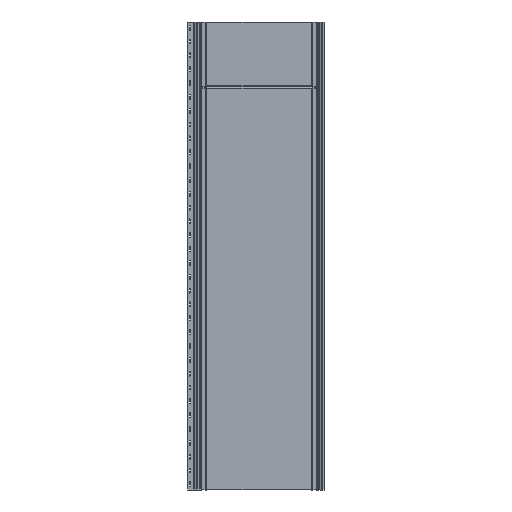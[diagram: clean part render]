
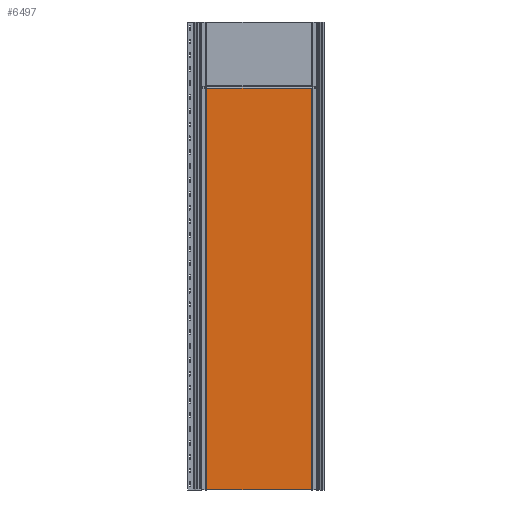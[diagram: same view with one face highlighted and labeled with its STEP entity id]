
A CAD part, front view. The second image highlights one B-rep face of the part: STEP entity #6497.
In plain terms, the highlighted planar face has unit normal (0, -1, 0).
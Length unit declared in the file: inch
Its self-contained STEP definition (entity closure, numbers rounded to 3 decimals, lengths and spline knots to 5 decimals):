
#505=FACE_OUTER_BOUND('',#878,.T.);
#878=EDGE_LOOP('',(#4473,#4474,#4475,#4476));
#1667=LINE('',#9478,#2184);
#1699=LINE('',#9674,#2216);
#1700=LINE('',#9683,#2217);
#1701=LINE('',#9684,#2218);
#2184=VECTOR('',#7623,0.3937);
#2216=VECTOR('',#7719,39.37008);
#2217=VECTOR('',#7722,39.37008);
#2218=VECTOR('',#7723,39.37008);
#2731=VERTEX_POINT('',#9475);
#2732=VERTEX_POINT('',#9477);
#2773=VERTEX_POINT('',#9673);
#2774=VERTEX_POINT('',#9682);
#3373=EDGE_CURVE('',#2732,#2731,#1667,.T.);
#3429=EDGE_CURVE('',#2773,#2732,#1699,.T.);
#3431=EDGE_CURVE('',#2774,#2731,#1700,.T.);
#3432=EDGE_CURVE('',#2773,#2774,#1701,.T.);
#4473=ORIENTED_EDGE('',*,*,#3373,.T.);
#4474=ORIENTED_EDGE('',*,*,#3431,.F.);
#4475=ORIENTED_EDGE('',*,*,#3432,.F.);
#4476=ORIENTED_EDGE('',*,*,#3429,.T.);
#6356=PLANE('',#6937);
#6497=ADVANCED_FACE('',(#505),#6356,.T.);
#6937=AXIS2_PLACEMENT_3D('',#9681,#7720,#7721);
#7623=DIRECTION('',(1.,0.,0.));
#7719=DIRECTION('',(0.,0.,-1.));
#7720=DIRECTION('center_axis',(0.,-1.,0.));
#7721=DIRECTION('ref_axis',(1.,0.,0.));
#7722=DIRECTION('',(0.,0.,-1.));
#7723=DIRECTION('',(1.,0.,0.));
#9475=CARTESIAN_POINT('',(18.74172,0.03622,134.11969));
#9477=CARTESIAN_POINT('',(2.71899,0.03622,134.11969));
#9478=CARTESIAN_POINT('',(1.24029,0.03622,134.11969));
#9673=CARTESIAN_POINT('',(2.71899,0.03622,195.80149));
#9674=CARTESIAN_POINT('',(2.71899,0.03622,78.74016));
#9681=CARTESIAN_POINT('Origin',(2.71899,0.03622,78.74016));
#9682=CARTESIAN_POINT('',(18.74172,0.03622,195.80149));
#9683=CARTESIAN_POINT('',(18.74172,0.03622,78.74016));
#9684=CARTESIAN_POINT('',(2.71899,0.03622,195.80149));
